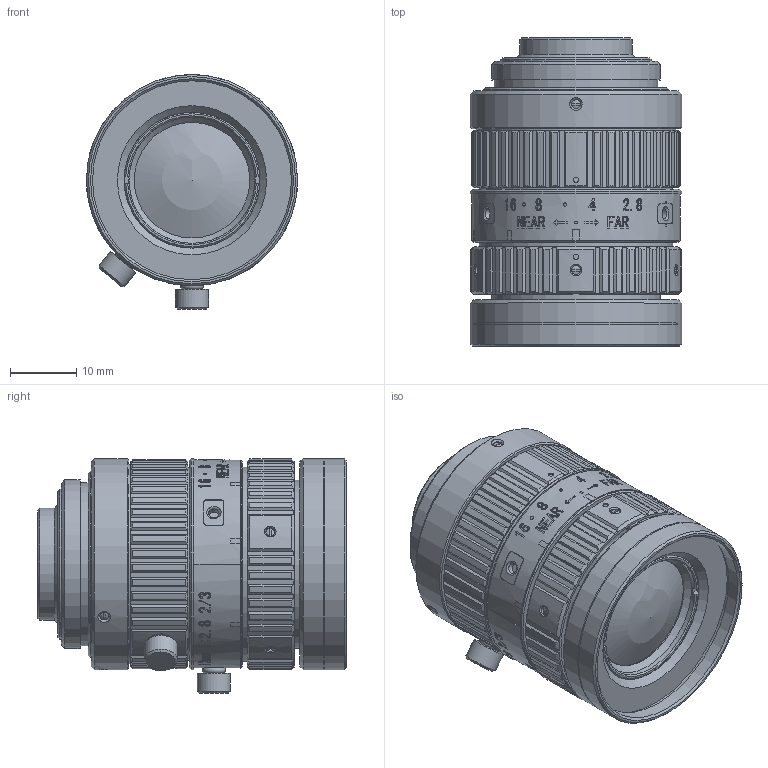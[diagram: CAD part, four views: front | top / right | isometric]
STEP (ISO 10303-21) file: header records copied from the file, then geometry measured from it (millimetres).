
FILE_DESCRIPTION(/* description */ ('Unknown'),/* implementation_level */ '2;1');
FILE_NAME(/* name */ 'M1228-MPX_Outline_240925',/* time_stamp */ '2024-09-25T17:27:10+09:00',/* author */ ('Unknown'),/* organization */ ('Unknown'),/* preprocessor_version */ 'ST-DEVELOPER v18.102',/* originating_system */ 'Solid Edge',/* authorisation */ 'Unknown');
FILE_SCHEMA (('AUTOMOTIVE_DESIGN {1 0 10303 214 3 1 1}'));
Products named in the file (5): M1228-MPX_Outline_240925; Fix-screw; Fix-Barrel; Lens-Barrel_inf; Lens-Barrel_Mod
Assembly tree (4 placements, depth 2):
  M1228-MPX_Outline_240925
    Fix-screw
    Fix-Barrel
    Lens-Barrel_inf
    Lens-Barrel_Mod
Bounding box: 31.8 x 46.49 x 35.35 mm (x, y, z)
Surface area: 17829.5 mm2
Topology: 7 solids, 9 shells, 1330 faces, 3480 edges, 2287 vertices
Faces by surface type: plane 748, cylinder 244, bspline 169, cone 148, sphere 19, torus 2
Full cylindrical faces by diameter (mm): 0.8 x2, 1.321 x8, 1.4 x1, 1.5 x2, 1.567 x3, 2 x4, 2.4 x1, 2.8 x1, 3 x1, 4.5 x2, 4.999 x2, 12.5 x1, 16.9 x1, 17.4 x2, 18 x2, 19 x2, 20.459 x2, 22.6 x1, 22.65 x1, 22.7 x2, 24.6 x1, 25.3 x2, 25.4 x1, 28 x1, 29 x1, 29.2 x1, 29.861 x1, 29.9 x1, 29.959 x2, 30 x3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
Entity records: 59093 total; most frequent: CARTESIAN_POINT 19423, ORIENTED_EDGE 6568, DIRECTION 5602, EDGE_CURVE 3284, VERTEX_POINT 2225, AXIS2_PLACEMENT_3D 2172, FACE_BOUND 1587, EDGE_LOOP 1585
